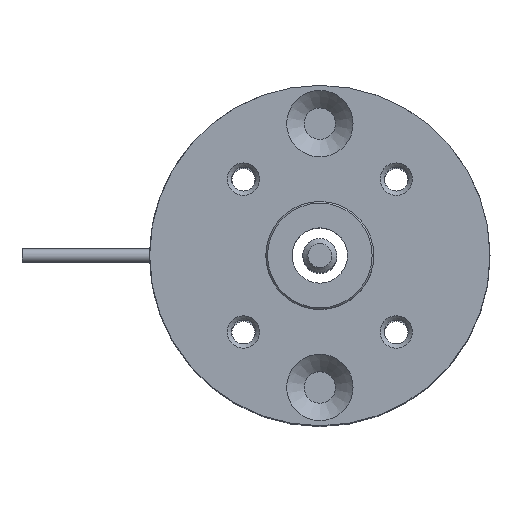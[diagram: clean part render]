
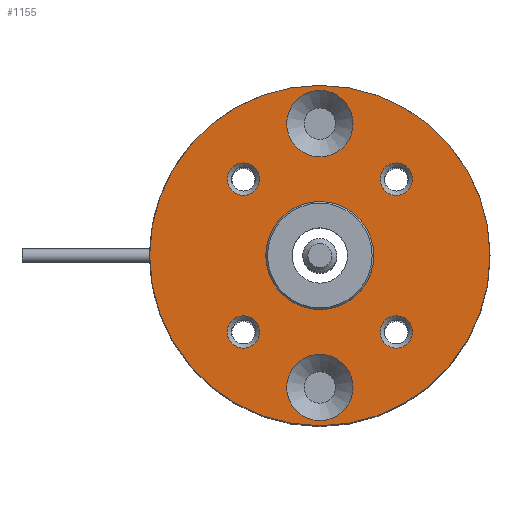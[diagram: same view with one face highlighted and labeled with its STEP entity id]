
A CAD part, top view. The second image highlights one B-rep face of the part: STEP entity #1155.
In plain terms, the highlighted planar face has unit normal (0, 0, 1).
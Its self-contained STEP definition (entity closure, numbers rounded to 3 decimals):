
#108=FACE_BOUND('',#290,.T.);
#109=FACE_BOUND('',#291,.T.);
#110=FACE_BOUND('',#292,.T.);
#111=FACE_BOUND('',#293,.T.);
#112=FACE_BOUND('',#294,.T.);
#113=FACE_BOUND('',#295,.T.);
#114=FACE_BOUND('',#296,.T.);
#146=PLANE('',#1445);
#204=FACE_OUTER_BOUND('',#289,.T.);
#289=EDGE_LOOP('',(#995));
#290=EDGE_LOOP('',(#996,#997));
#291=EDGE_LOOP('',(#998,#999));
#292=EDGE_LOOP('',(#1000));
#293=EDGE_LOOP('',(#1001));
#294=EDGE_LOOP('',(#1002));
#295=EDGE_LOOP('',(#1003));
#296=EDGE_LOOP('',(#1004));
#504=CIRCLE('',#1430,3.9);
#505=CIRCLE('',#1431,3.9);
#509=CIRCLE('',#1437,3.9);
#510=CIRCLE('',#1438,3.9);
#514=CIRCLE('',#1444,1.9);
#515=CIRCLE('',#1446,20.);
#516=CIRCLE('',#1447,1.9);
#517=CIRCLE('',#1448,1.9);
#518=CIRCLE('',#1449,6.35);
#519=CIRCLE('',#1450,1.9);
#599=VERTEX_POINT('',#2101);
#600=VERTEX_POINT('',#2103);
#604=VERTEX_POINT('',#2115);
#605=VERTEX_POINT('',#2117);
#609=VERTEX_POINT('',#2129);
#610=VERTEX_POINT('',#2133);
#611=VERTEX_POINT('',#2135);
#612=VERTEX_POINT('',#2137);
#613=VERTEX_POINT('',#2139);
#614=VERTEX_POINT('',#2141);
#731=EDGE_CURVE('',#600,#599,#504,.T.);
#732=EDGE_CURVE('',#599,#600,#505,.T.);
#738=EDGE_CURVE('',#605,#604,#509,.T.);
#739=EDGE_CURVE('',#604,#605,#510,.T.);
#745=EDGE_CURVE('',#609,#609,#514,.T.);
#746=EDGE_CURVE('',#610,#610,#515,.T.);
#747=EDGE_CURVE('',#611,#611,#516,.T.);
#748=EDGE_CURVE('',#612,#612,#517,.T.);
#749=EDGE_CURVE('',#613,#613,#518,.T.);
#750=EDGE_CURVE('',#614,#614,#519,.T.);
#995=ORIENTED_EDGE('',*,*,#746,.F.);
#996=ORIENTED_EDGE('',*,*,#731,.T.);
#997=ORIENTED_EDGE('',*,*,#732,.T.);
#998=ORIENTED_EDGE('',*,*,#738,.T.);
#999=ORIENTED_EDGE('',*,*,#739,.T.);
#1000=ORIENTED_EDGE('',*,*,#747,.F.);
#1001=ORIENTED_EDGE('',*,*,#748,.F.);
#1002=ORIENTED_EDGE('',*,*,#749,.T.);
#1003=ORIENTED_EDGE('',*,*,#750,.F.);
#1004=ORIENTED_EDGE('',*,*,#745,.F.);
#1155=ADVANCED_FACE('',(#204,#108,#109,#110,#111,#112,#113,#114),#146,.F.);
#1430=AXIS2_PLACEMENT_3D('',#2104,#1746,#1747);
#1431=AXIS2_PLACEMENT_3D('',#2105,#1748,#1749);
#1437=AXIS2_PLACEMENT_3D('',#2118,#1762,#1763);
#1438=AXIS2_PLACEMENT_3D('',#2119,#1764,#1765);
#1444=AXIS2_PLACEMENT_3D('',#2131,#1778,#1779);
#1445=AXIS2_PLACEMENT_3D('',#2132,#1780,#1781);
#1446=AXIS2_PLACEMENT_3D('',#2134,#1782,#1783);
#1447=AXIS2_PLACEMENT_3D('',#2136,#1784,#1785);
#1448=AXIS2_PLACEMENT_3D('',#2138,#1786,#1787);
#1449=AXIS2_PLACEMENT_3D('',#2140,#1788,#1789);
#1450=AXIS2_PLACEMENT_3D('',#2142,#1790,#1791);
#1746=DIRECTION('center_axis',(0.,0.,-1.));
#1747=DIRECTION('ref_axis',(-1.,0.,0.));
#1748=DIRECTION('center_axis',(0.,0.,-1.));
#1749=DIRECTION('ref_axis',(-1.,0.,0.));
#1762=DIRECTION('center_axis',(0.,0.,-1.));
#1763=DIRECTION('ref_axis',(1.,0.,0.));
#1764=DIRECTION('center_axis',(0.,0.,-1.));
#1765=DIRECTION('ref_axis',(1.,0.,0.));
#1778=DIRECTION('center_axis',(0.,0.,1.));
#1779=DIRECTION('ref_axis',(0.,-1.,0.));
#1780=DIRECTION('center_axis',(0.,0.,-1.));
#1781=DIRECTION('ref_axis',(-1.,0.,0.));
#1782=DIRECTION('center_axis',(0.,0.,-1.));
#1783=DIRECTION('ref_axis',(-1.,0.,0.));
#1784=DIRECTION('center_axis',(0.,0.,1.));
#1785=DIRECTION('ref_axis',(1.,0.,0.));
#1786=DIRECTION('center_axis',(0.,0.,1.));
#1787=DIRECTION('ref_axis',(-1.,0.,0.));
#1788=DIRECTION('center_axis',(0.,0.,-1.));
#1789=DIRECTION('ref_axis',(-1.,0.,0.));
#1790=DIRECTION('center_axis',(0.,0.,1.));
#1791=DIRECTION('ref_axis',(0.,1.,0.));
#2101=CARTESIAN_POINT('',(-11.6,0.,12.6));
#2103=CARTESIAN_POINT('',(-19.4,0.,12.6));
#2104=CARTESIAN_POINT('Origin',(-15.5,0.,12.6));
#2105=CARTESIAN_POINT('Origin',(-15.5,0.,12.6));
#2115=CARTESIAN_POINT('',(11.6,0.,12.6));
#2117=CARTESIAN_POINT('',(19.4,0.,12.6));
#2118=CARTESIAN_POINT('Origin',(15.5,0.,12.6));
#2119=CARTESIAN_POINT('Origin',(15.5,0.,12.6));
#2129=CARTESIAN_POINT('',(-8.98,10.88,12.6));
#2131=CARTESIAN_POINT('Origin',(-8.98,8.98,12.6));
#2132=CARTESIAN_POINT('Origin',(0.,0.,12.6));
#2133=CARTESIAN_POINT('',(20.,0.,12.6));
#2134=CARTESIAN_POINT('Origin',(0.,0.,12.6));
#2135=CARTESIAN_POINT('',(-10.88,-8.98,12.6));
#2136=CARTESIAN_POINT('Origin',(-8.98,-8.98,12.6));
#2137=CARTESIAN_POINT('',(10.88,8.98,12.6));
#2138=CARTESIAN_POINT('Origin',(8.98,8.98,12.6));
#2139=CARTESIAN_POINT('',(6.35,0.,12.6));
#2140=CARTESIAN_POINT('Origin',(0.,0.,12.6));
#2141=CARTESIAN_POINT('',(8.98,-10.88,12.6));
#2142=CARTESIAN_POINT('Origin',(8.98,-8.98,12.6));
